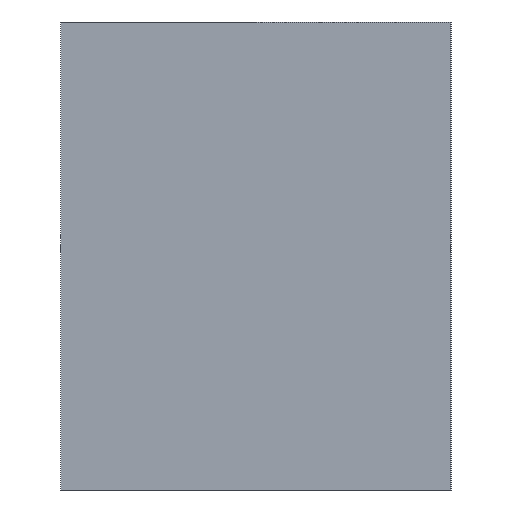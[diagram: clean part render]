
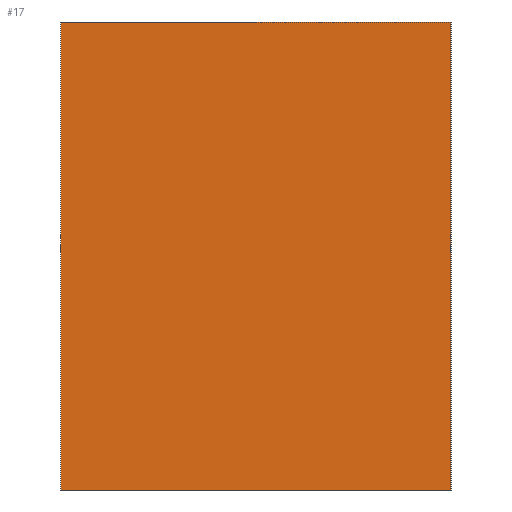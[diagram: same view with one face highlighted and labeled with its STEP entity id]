
A CAD part, left-side view. The second image highlights one B-rep face of the part: STEP entity #17.
In plain terms, the highlighted planar face has unit normal (-1, 0, 0).
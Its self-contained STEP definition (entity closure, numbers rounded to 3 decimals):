
#17 = ADVANCED_FACE('',(#18),#32,.F.);
#18 = FACE_BOUND('',#19,.F.);
#19 = EDGE_LOOP('',(#20,#55,#83,#111));
#20 = ORIENTED_EDGE('',*,*,#21,.F.);
#21 = EDGE_CURVE('',#22,#24,#26,.T.);
#22 = VERTEX_POINT('',#23);
#23 = CARTESIAN_POINT('',(0.,0.,0.));
#24 = VERTEX_POINT('',#25);
#25 = CARTESIAN_POINT('',(0.,0.,7.2));
#26 = SURFACE_CURVE('',#27,(#31,#43),.PCURVE_S1.);
#27 = LINE('',#28,#29);
#28 = CARTESIAN_POINT('',(0.,0.,0.));
#29 = VECTOR('',#30,1.);
#30 = DIRECTION('',(0.,0.,1.));
#31 = PCURVE('',#32,#37);
#32 = PLANE('',#33);
#33 = AXIS2_PLACEMENT_3D('',#34,#35,#36);
#34 = CARTESIAN_POINT('',(0.,0.,0.));
#35 = DIRECTION('',(1.,0.,0.));
#36 = DIRECTION('',(0.,0.,1.));
#37 = DEFINITIONAL_REPRESENTATION('',(#38),#42);
#38 = LINE('',#39,#40);
#39 = CARTESIAN_POINT('',(0.,0.));
#40 = VECTOR('',#41,1.);
#41 = DIRECTION('',(1.,0.));
#42 = ( GEOMETRIC_REPRESENTATION_CONTEXT(2) 
PARAMETRIC_REPRESENTATION_CONTEXT() REPRESENTATION_CONTEXT('2D SPACE',''
  ) );
#43 = PCURVE('',#44,#49);
#44 = PLANE('',#45);
#45 = AXIS2_PLACEMENT_3D('',#46,#47,#48);
#46 = CARTESIAN_POINT('',(0.,0.,0.));
#47 = DIRECTION('',(0.,1.,0.));
#48 = DIRECTION('',(0.,0.,1.));
#49 = DEFINITIONAL_REPRESENTATION('',(#50),#54);
#50 = LINE('',#51,#52);
#51 = CARTESIAN_POINT('',(0.,0.));
#52 = VECTOR('',#53,1.);
#53 = DIRECTION('',(1.,0.));
#54 = ( GEOMETRIC_REPRESENTATION_CONTEXT(2) 
PARAMETRIC_REPRESENTATION_CONTEXT() REPRESENTATION_CONTEXT('2D SPACE',''
  ) );
#55 = ORIENTED_EDGE('',*,*,#56,.T.);
#56 = EDGE_CURVE('',#22,#57,#59,.T.);
#57 = VERTEX_POINT('',#58);
#58 = CARTESIAN_POINT('',(0.,6.,0.));
#59 = SURFACE_CURVE('',#60,(#64,#71),.PCURVE_S1.);
#60 = LINE('',#61,#62);
#61 = CARTESIAN_POINT('',(0.,0.,0.));
#62 = VECTOR('',#63,1.);
#63 = DIRECTION('',(0.,1.,0.));
#64 = PCURVE('',#32,#65);
#65 = DEFINITIONAL_REPRESENTATION('',(#66),#70);
#66 = LINE('',#67,#68);
#67 = CARTESIAN_POINT('',(0.,0.));
#68 = VECTOR('',#69,1.);
#69 = DIRECTION('',(0.,-1.));
#70 = ( GEOMETRIC_REPRESENTATION_CONTEXT(2) 
PARAMETRIC_REPRESENTATION_CONTEXT() REPRESENTATION_CONTEXT('2D SPACE',''
  ) );
#71 = PCURVE('',#72,#77);
#72 = PLANE('',#73);
#73 = AXIS2_PLACEMENT_3D('',#74,#75,#76);
#74 = CARTESIAN_POINT('',(0.,0.,0.));
#75 = DIRECTION('',(0.,0.,1.));
#76 = DIRECTION('',(1.,0.,0.));
#77 = DEFINITIONAL_REPRESENTATION('',(#78),#82);
#78 = LINE('',#79,#80);
#79 = CARTESIAN_POINT('',(0.,0.));
#80 = VECTOR('',#81,1.);
#81 = DIRECTION('',(0.,1.));
#82 = ( GEOMETRIC_REPRESENTATION_CONTEXT(2) 
PARAMETRIC_REPRESENTATION_CONTEXT() REPRESENTATION_CONTEXT('2D SPACE',''
  ) );
#83 = ORIENTED_EDGE('',*,*,#84,.F.);
#84 = EDGE_CURVE('',#85,#57,#87,.T.);
#85 = VERTEX_POINT('',#86);
#86 = CARTESIAN_POINT('',(0.,6.,7.2));
#87 = SURFACE_CURVE('',#88,(#92,#99),.PCURVE_S1.);
#88 = LINE('',#89,#90);
#89 = CARTESIAN_POINT('',(0.,6.,7.2));
#90 = VECTOR('',#91,1.);
#91 = DIRECTION('',(0.,0.,-1.));
#92 = PCURVE('',#32,#93);
#93 = DEFINITIONAL_REPRESENTATION('',(#94),#98);
#94 = LINE('',#95,#96);
#95 = CARTESIAN_POINT('',(7.2,-6.));
#96 = VECTOR('',#97,1.);
#97 = DIRECTION('',(-1.,0.));
#98 = ( GEOMETRIC_REPRESENTATION_CONTEXT(2) 
PARAMETRIC_REPRESENTATION_CONTEXT() REPRESENTATION_CONTEXT('2D SPACE',''
  ) );
#99 = PCURVE('',#100,#105);
#100 = PLANE('',#101);
#101 = AXIS2_PLACEMENT_3D('',#102,#103,#104);
#102 = CARTESIAN_POINT('',(0.,6.,0.));
#103 = DIRECTION('',(0.,1.,0.));
#104 = DIRECTION('',(0.,0.,1.));
#105 = DEFINITIONAL_REPRESENTATION('',(#106),#110);
#106 = LINE('',#107,#108);
#107 = CARTESIAN_POINT('',(7.2,0.));
#108 = VECTOR('',#109,1.);
#109 = DIRECTION('',(-1.,0.));
#110 = ( GEOMETRIC_REPRESENTATION_CONTEXT(2) 
PARAMETRIC_REPRESENTATION_CONTEXT() REPRESENTATION_CONTEXT('2D SPACE',''
  ) );
#111 = ORIENTED_EDGE('',*,*,#112,.F.);
#112 = EDGE_CURVE('',#24,#85,#113,.T.);
#113 = SURFACE_CURVE('',#114,(#118,#125),.PCURVE_S1.);
#114 = LINE('',#115,#116);
#115 = CARTESIAN_POINT('',(0.,0.,7.2));
#116 = VECTOR('',#117,1.);
#117 = DIRECTION('',(0.,1.,0.));
#118 = PCURVE('',#32,#119);
#119 = DEFINITIONAL_REPRESENTATION('',(#120),#124);
#120 = LINE('',#121,#122);
#121 = CARTESIAN_POINT('',(7.2,0.));
#122 = VECTOR('',#123,1.);
#123 = DIRECTION('',(0.,-1.));
#124 = ( GEOMETRIC_REPRESENTATION_CONTEXT(2) 
PARAMETRIC_REPRESENTATION_CONTEXT() REPRESENTATION_CONTEXT('2D SPACE',''
  ) );
#125 = PCURVE('',#126,#131);
#126 = PLANE('',#127);
#127 = AXIS2_PLACEMENT_3D('',#128,#129,#130);
#128 = CARTESIAN_POINT('',(0.,0.,7.2));
#129 = DIRECTION('',(0.,0.,1.));
#130 = DIRECTION('',(1.,0.,0.));
#131 = DEFINITIONAL_REPRESENTATION('',(#132),#136);
#132 = LINE('',#133,#134);
#133 = CARTESIAN_POINT('',(0.,0.));
#134 = VECTOR('',#135,1.);
#135 = DIRECTION('',(0.,1.));
#136 = ( GEOMETRIC_REPRESENTATION_CONTEXT(2) 
PARAMETRIC_REPRESENTATION_CONTEXT() REPRESENTATION_CONTEXT('2D SPACE',''
  ) );
